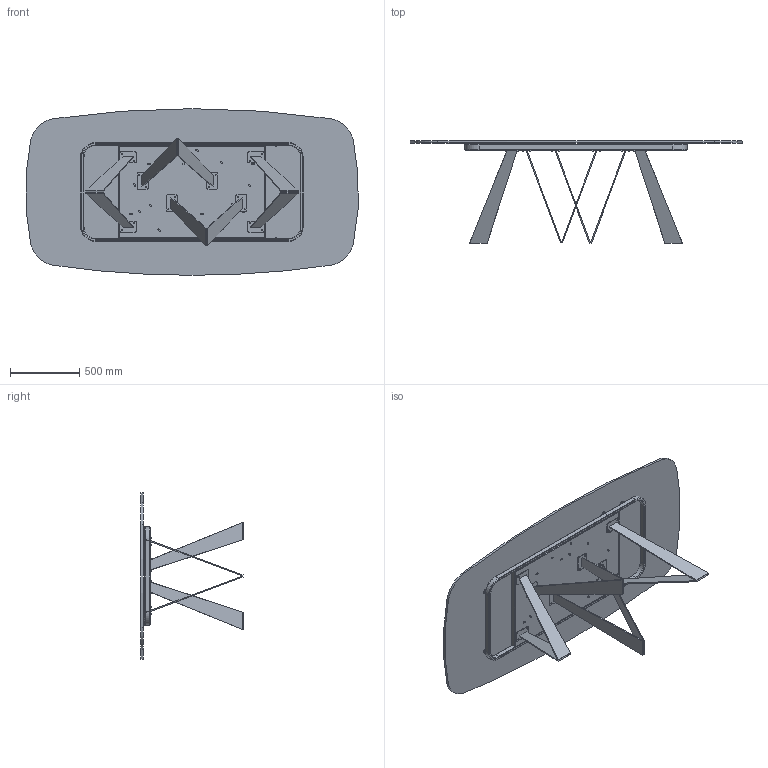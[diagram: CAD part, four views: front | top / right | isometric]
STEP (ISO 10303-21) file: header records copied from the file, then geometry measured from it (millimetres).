
FILE_DESCRIPTION (( 'STEP AP203' ), '1' );
FILE_NAME ('NO43G_Noa_240x120x75h_Glass Shaped.STEP', '2024-08-07T14:16:14', ( '' ), ( '' ), 'SwSTEP 2.0', 'SolidWorks 2022', '' );
FILE_SCHEMA (( 'CONFIG_CONTROL_DESIGN' ));
Length unit declared in the file: millimetre
Products named in the file (14): rondella M8_8X16; 434070-00-PIEDINO TPV GOMMA NERO D. 30x8max18; TTAV06-01-TELAIO X TAVOLI PLAI ONDA NOA 240cm_TTAV06; NOA000001GMB-00-Piastra Principale gamba NOA_Piatto DX; NOA000000-00-NOA BASE GREZZA; TTAV06_01-01-STRUTTURA X TAVOLI PLAI ONDA NOA 240_Default<A macchina>; C4XCRXX-00-Piani Sagomati in Cristallo_2400 x 1200; NO43G_Noa_240x120x75h_Glass Shaped; NOA000001PTRS-00-Piastra rettangoalre con fori; M8xXXmm_M8x16mm; NOA000001GMB-00-Piastra Principale gamba NOA_Piatto SX; MAPPA; TTAV06_02-01-VASSOIO TAVOLI PLAI ONDA NOA 240; Assieme NOA var 3_noa 200-240
Assembly tree (51 placements, depth 4):
  NO43G_Noa_240x120x75h_Glass Shaped
    C4XCRXX-00-Piani Sagomati in Cristallo_2400 x 1200
    Assieme NOA var 3_noa 200-240
      NOA000000-00-NOA BASE GREZZA  x4
        NOA000001GMB-00-Piastra Principale gamba NOA_Piatto SX
        NOA000001GMB-00-Piastra Principale gamba NOA_Piatto DX
        NOA000001PTRS-00-Piastra rettangoalre con fori
      TTAV06-01-TELAIO X TAVOLI PLAI ONDA NOA 240cm_TTAV06
        TTAV06_02-01-VASSOIO TAVOLI PLAI ONDA NOA 240
        TTAV06_01-01-STRUTTURA X TAVOLI PLAI ONDA NOA 240_Default<A macchina>
    M8xXXmm_M8x16mm  x16
    rondella M8_8X16  x16
    434070-00-PIEDINO TPV GOMMA NERO D. 30x8max18  x6
  MAPPA
Bounding box: 2391.62 x 734.8 x 1200 mm (x, y, z)
Volume: 48980750.4 mm3; surface area: 9448753.6 mm2
Topology: 70 solids, 70 shells, 1477 faces, 3375 edges, 2022 vertices
Faces by surface type: plane 584, cylinder 389, cone 256, torus 248
Entity records: 20239 total; most frequent: DIRECTION 3308, CARTESIAN_POINT 3057, ORIENTED_EDGE 2898, EDGE_CURVE 1449, AXIS2_PLACEMENT_3D 1243, VERTEX_POINT 906, LINE 822, VECTOR 822
